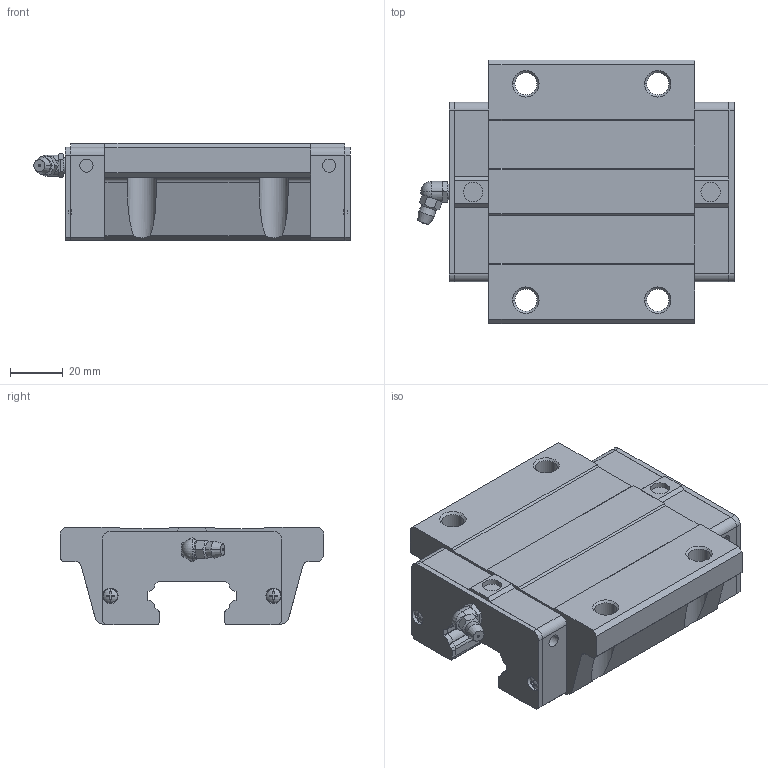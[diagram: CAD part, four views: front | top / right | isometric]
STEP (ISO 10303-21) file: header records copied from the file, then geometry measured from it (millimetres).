
FILE_DESCRIPTION(('starvars output'),'2;1');
FILE_NAME('cv20190610050430000011378.stp','05:04:30 2019/06/10',( 'Thomas Industrial Network Germany GmbH'),( 'Thomas Industrial Network Germany GmbH'),'unknown preprocess','ACIS' ,'unknown authorization');
FILE_SCHEMA(('CONFIG_CONTROL_DESIGN {UNKNOWN IMPLEMENTATION LEVEL}'));
Length unit declared in the file: millimetre
Products named in the file (10): PRODUCT_ID_1; PRODUCT_ID_2; PRODUCT_ID_3; PRODUCT_ID_4; PRODUCT_ID_5; PRODUCT_ID_6; PRODUCT_ID_7; PRODUCT_ID_8; PRODUCT_ID_9; PRODUCT_ID_10
Bounding box: 120 x 100 x 37 mm (x, y, z)
Volume: 261778.8 mm3; surface area: 54428.9 mm2
Topology: 10 solids, 10 shells, 455 faces, 1214 edges, 788 vertices
Faces by surface type: plane 243, cylinder 144, cone 56, sphere 12
Entity records: 13818 total; most frequent: ORIENTED_EDGE 2420, CARTESIAN_POINT 2278, DIRECTION 2037, EDGE_CURVE 1210, VERTEX_POINT 788, VECTOR 691, LINE 691, AXIS2_PLACEMENT_3D 673
